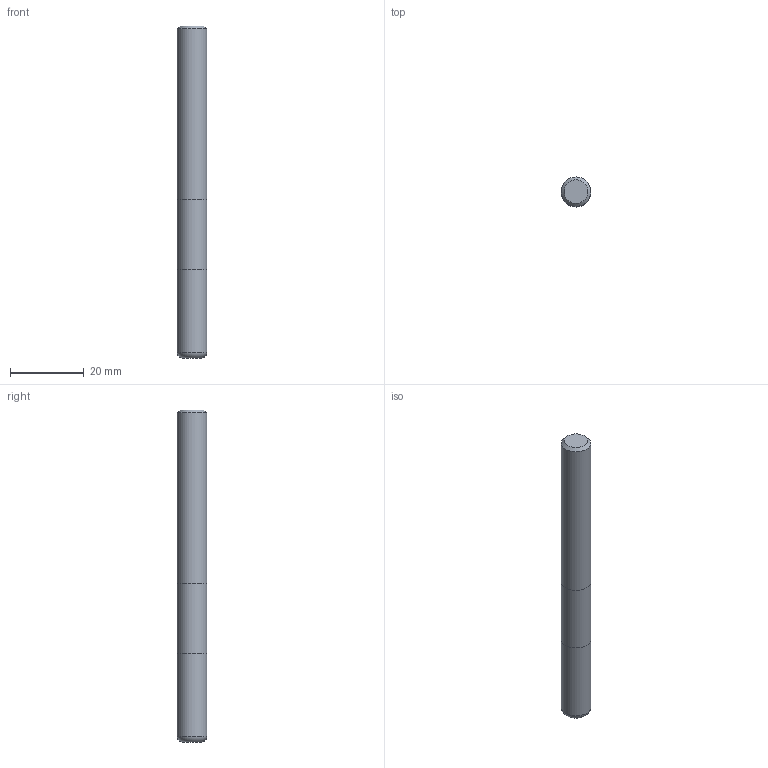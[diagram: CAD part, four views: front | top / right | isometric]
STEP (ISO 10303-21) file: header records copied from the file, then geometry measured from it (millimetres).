
FILE_DESCRIPTION((''),'2;1');
FILE_NAME('C:\Users\nsx150\AppData\Local\Temp\Mastercam 2021\03UJLO2QV3\TEMP.step','2023-09-20T09:30:02',(''),(''),'STEP Write','Mastercam 2021 ... CNC Software, Inc.','');
FILE_SCHEMA(('AUTOMOTIVE_DESIGN'));
Length unit declared in the file: millimetre
Products named in the file (1): None
Bounding box: 8 x 8 x 90 mm (x, y, z)
Volume: 4505.3 mm3; surface area: 2433.2 mm2
Topology: 2 solids, 2 shells, 9 faces, 12 edges, 7 vertices
Faces by surface type: plane 4, cylinder 3, torus 1, cone 1
Full cylindrical faces by diameter (mm): 8 x3
Entity records: 211 total; most frequent: DIRECTION 36, CARTESIAN_POINT 25, AXIS2_PLACEMENT_3D 18, ORIENTED_EDGE 14, EDGE_LOOP 14, STYLED_ITEM 12, ADVANCED_FACE 9, FACE_BOUND 9
